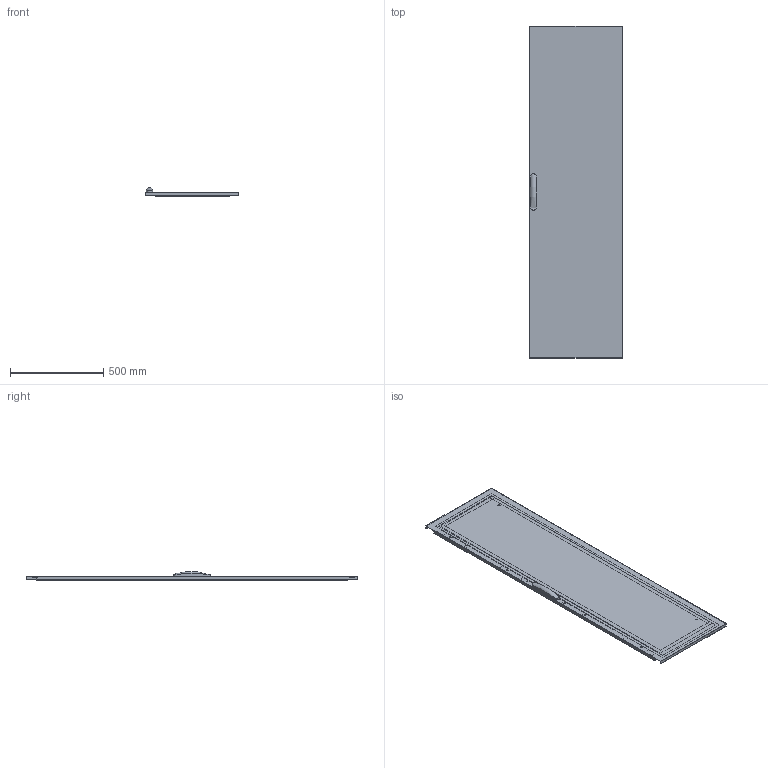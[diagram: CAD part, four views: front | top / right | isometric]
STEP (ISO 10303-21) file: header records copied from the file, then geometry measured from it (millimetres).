
FILE_DESCRIPTION( ( 'STEP AP214' ), '1' );
FILE_NAME( 'p:/temp/worker_149/temp/exporttempdir_4784_5_gGPtb/format_0/DNSS1810R(0).stp', '2021-03-15T15:55:26', ( 'License CC BY-ND 4.0' ), ( 'CADENAS' ), ' ', 'PARTsolutions', ' ' );
FILE_SCHEMA( ( 'AUTOMOTIVE_DESIGN { 1 0 10303 214 1 1 1 1 }' ) );
Length unit declared in the file: millimetre
Products named in the file (5): DNSS1810R(0); _DNSS1810R(0)_Right Door; _LSSDSXXXX(0)_Lock; _LSSDS1800(0)_Espagnolette Top; _LSSDS1800(0)_Espagnolette Bottom
Assembly tree (4 placements, depth 2):
  DNSS1810R(0)
    _DNSS1810R(0)_Right Door
    _LSSDSXXXX(0)_Lock
    _LSSDS1800(0)_Espagnolette Top
    _LSSDS1800(0)_Espagnolette Bottom
Bounding box: 498 x 1782 x 45.35 mm (x, y, z)
Volume: 4111998 mm3; surface area: 2272354.1 mm2
Topology: 4 solids, 4 shells, 422 faces, 1105 edges, 734 vertices
Faces by surface type: plane 341, cylinder 48, cone 32, torus 1
Full cylindrical faces by diameter (mm): 5 x4, 5.2 x2, 6 x6, 7.5 x6, 8 x2, 9 x2, 14 x2
Entity records: 16247 total; most frequent: CARTESIAN_POINT 2370, ORIENTED_EDGE 2130, DIRECTION 2055, EDGE_CURVE 1065, LINE 913, VECTOR 913, VERTEX_POINT 730, AXIS2_PLACEMENT_3D 571
